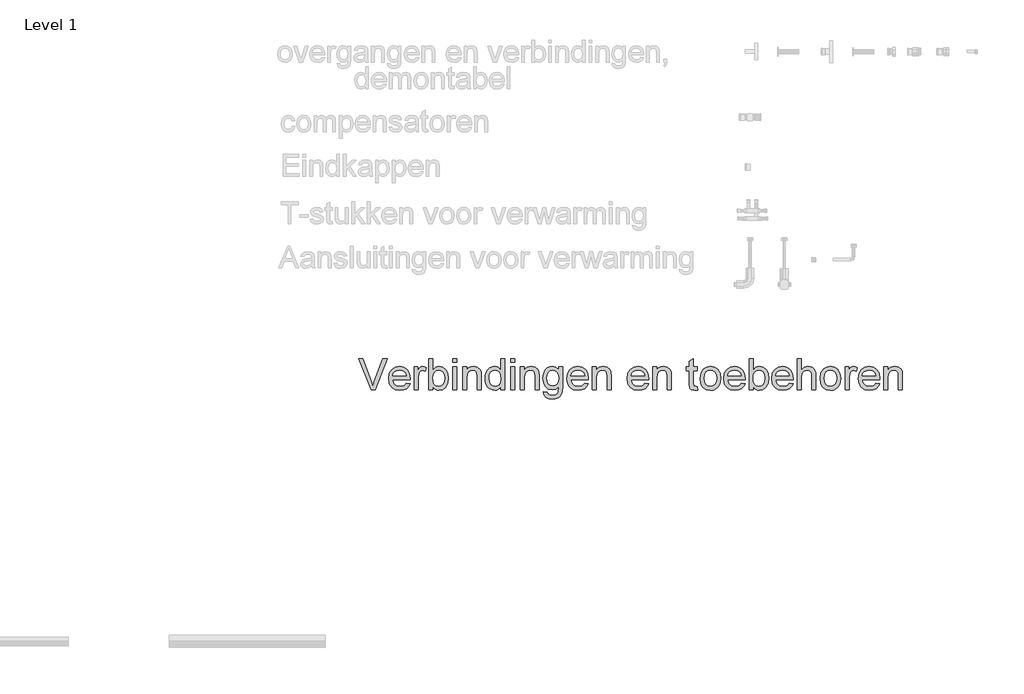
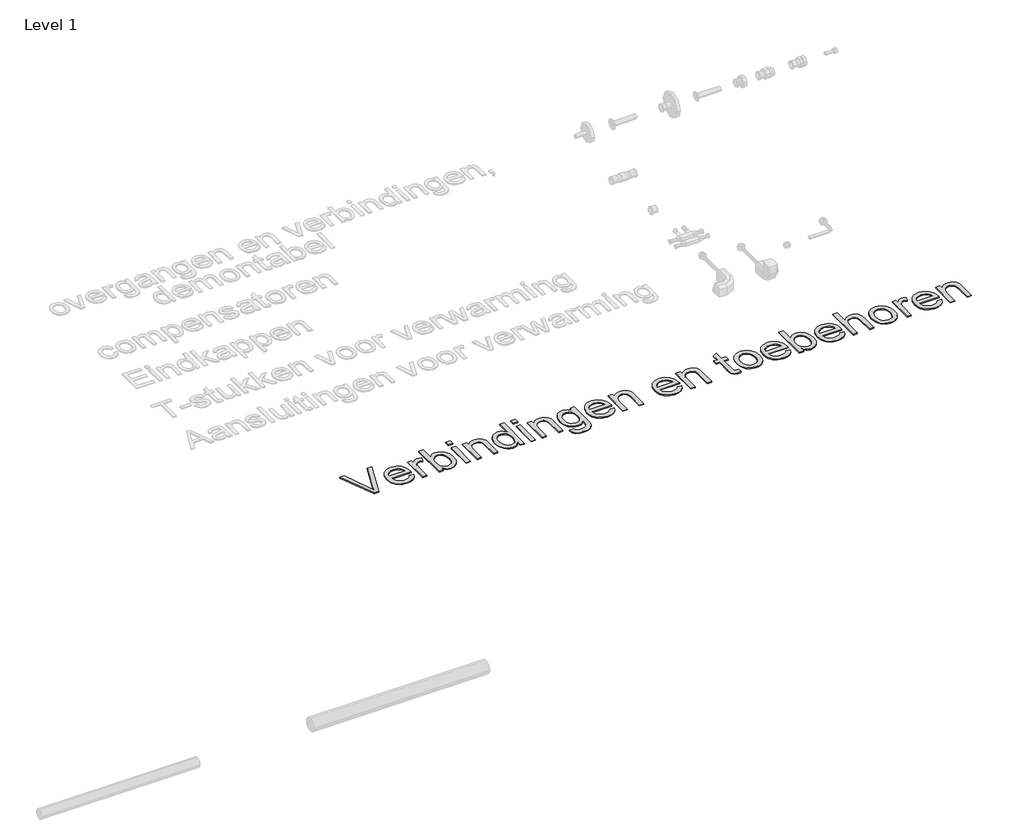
# One storey, part 4 of 8: 1 proxy.
"""IFC4 building model written with IfcOpenShell, lengths in millimetres."""

from ifc_helpers import new_model, si_unit, origin, origin_with_axes, place, context, project, spatial, polyline, outline, extrude, element, save

model = new_model("IFC4")

# Units and contexts
model_context = context("Model", 3, world=origin())
ifc_project = project(units=[si_unit("LENGTHUNIT", "METRE", prefix="MILLI")], contexts=[model_context])

# Site, building, storey
site = spatial("IfcSite", under=ifc_project)
building = spatial("IfcBuilding", under=site)
storey = spatial("IfcBuildingStorey", under=building, Name="Level 1", Elevation=0.0)

# Proxy
placement = place(None, origin())
element("IfcBuildingElementProxy", 1, Name="medium", ObjectType="medium", at=placement, inside=storey, context=model_context, shape_type="SweptSolid", body=[
    extrude(outline(polyline([(3231.9736722, 3122.4489245), (3152.0206519, 3323.3615448), (3178.900563, 3323.3615448), (3232.4151306, 3178.6122425), (3243.2553867, 3145.9933722), (3253.94849, 3178.6122425), (3307.6102104, 3323.3615448), (3334.4901215, 3323.3615448), (3257.9216156, 3122.4489245), (3231.9736722, 3122.4489245)])), origin_with_axes(), (0.0, 0.0, 1.0), 5.0),
    extrude(outline(polyline([(3458.00037, 3166.3985602), (3482.6239382, 3163.2593005), (3473.7518508, 3144.7057853), (3459.5945253, 3130.836634), (3440.4707929, 3122.1914071), (3416.6994847, 3119.3096649), (3387.2321369, 3124.2822032), (3364.5583432, 3139.1998181), (3350.1005808, 3163.0937536), (3345.2813267, 3194.995254), (3350.1496318, 3227.9697435), (3364.754547, 3252.6300999), (3387.1217723, 3268.0075673), (3415.2770076, 3273.1333898), (3442.5554576, 3268.01983), (3464.3524658, 3252.6791508), (3478.6446813, 3228.0678454), (3483.4087532, 3195.1424068), (3483.2616004, 3188.3733781), (3370.3954042, 3188.3733781), (3374.7425431, 3169.5746081), (3384.8409039, 3155.7545078), (3399.4151623, 3147.2564338), (3417.189994, 3144.4237424), (3441.8135622, 3149.6721922), (3450.9615612, 3156.4780091), (3458.00037, 3166.3985602)]), holes=[polyline([(3370.3954042, 3213.4874556), (3458.2946756, 3213.4874556), (3454.8978985, 3226.7557329), (3448.2392344, 3236.2470884), (3433.597531, 3245.0762563), (3415.1789058, 3248.0193122), (3398.2502026, 3245.6709988), (3384.2522927, 3238.6260586), (3374.5218139, 3227.6447811), (3370.3954042, 3213.4874556)])]), origin_with_axes(), (0.0, 0.0, 1.0), 5.0),
    extrude(outline(polyline([(3508.5228307, 3122.4489245), (3508.5228307, 3269.9941301), (3530.4976485, 3269.9941301), (3530.4976485, 3248.166465), (3546.0958451, 3268.2773474), (3561.7921436, 3273.1333898), (3574.3001314, 3271.1958779), (3587.004323, 3265.3833424), (3578.6166135, 3242.8689643), (3560.9582777, 3248.0193122), (3546.7580327, 3243.065168), (3537.7081356, 3229.3309069), (3533.6369082, 3199.9984491), (3533.6369082, 3122.4489245), (3508.5228307, 3122.4489245)])), origin_with_axes(), (0.0, 0.0, 1.0), 5.0),
    extrude(outline(polyline([(3627.814699, 3122.4489245), (3602.7006215, 3122.4489245), (3602.7006215, 3323.3615448), (3627.814699, 3323.3615448), (3627.814699, 3248.8531781), (3645.3994584, 3267.0633368), (3655.7921247, 3271.6158765), (3667.2516489, 3273.1333898), (3692.4147773, 3267.6642108), (3711.9370486, 3252.2867434), (3723.9300016, 3228.3744137), (3728.2710091, 3198.4288193), (3723.7767174, 3164.9025068), (3710.2938423, 3139.9601075), (3690.5079223, 3124.4722755), (3667.1044961, 3119.3096649), (3655.2678929, 3120.9743309), (3644.774059, 3125.968329), (3635.6229943, 3134.2916591), (3627.814699, 3145.9443213), (3627.814699, 3122.4489245)]), holes=[polyline([(3627.814699, 3197.2515969), (3629.5314816, 3176.3068486), (3634.6818296, 3162.1311291), (3647.8397423, 3148.8505891), (3664.946255, 3144.4237424), (3679.4408056, 3147.6856294), (3691.8261662, 3157.4712905), (3700.3242402, 3173.7194119), (3703.1569316, 3196.3686801), (3700.4407362, 3219.3490421), (3692.29215, 3235.4132225), (3680.2930656, 3244.8677898), (3666.0253756, 3248.0193122), (3651.5308249, 3244.7574252), (3639.1454644, 3234.9717641), (3630.6473904, 3219.0179483), (3627.814699, 3197.2515969)])]), origin_with_axes(), (0.0, 0.0, 1.0), 5.0),
    extrude(outline(polyline([(3756.5243464, 3122.4489245), (3756.5243464, 3269.9941301), (3781.6384239, 3269.9941301), (3781.6384239, 3122.4489245), (3756.5243464, 3122.4489245)])), origin_with_axes(), (0.0, 0.0, 1.0), 5.0),
    extrude(outline(polyline([(3756.5243464, 3298.2474673), (3756.5243464, 3323.3615448), (3781.6384239, 3323.3615448), (3781.6384239, 3298.2474673), (3756.5243464, 3298.2474673)])), origin_with_axes(), (0.0, 0.0, 1.0), 5.0),
    extrude(outline(polyline([(3819.3095402, 3122.4489245), (3819.3095402, 3269.9941301), (3844.4236178, 3269.9941301), (3844.4236178, 3249.3927383), (3853.1485524, 3259.7792733), (3863.6270579, 3267.1982269), (3875.8591342, 3271.6495991), (3889.8447814, 3273.1333898), (3913.5609074, 3268.3509238), (3929.7477152, 3255.7938851), (3937.2770333, 3237.3262089), (3938.6014085, 3213.0459972), (3938.6014085, 3122.4489245), (3913.487331, 3122.4489245), (3913.487331, 3209.6614829), (3910.5933259, 3231.8815554), (3900.3662065, 3243.6292538), (3883.1248036, 3248.0193122), (3868.4156552, 3245.5545029), (3855.8770105, 3238.1600748), (3847.2869659, 3223.8739906), (3844.4236178, 3200.7342131), (3844.4236178, 3122.4489245), (3819.3095402, 3122.4489245)])), origin_with_axes(), (0.0, 0.0, 1.0), 5.0),
    extrude(outline(polyline([(4064.1717962, 3122.4489245), (4064.1717962, 3146.140525), (4056.6578065, 3134.4020237), (4047.5557928, 3126.0173799), (4036.8657551, 3120.9865936), (4024.5876935, 3119.3096649), (4008.3518348, 3121.737686), (3993.4894022, 3129.0217495), (3980.907838, 3140.6529519), (3971.5145844, 3156.1223898), (3965.6652606, 3174.8046638), (3963.7154861, 3196.0743745), (3965.5119765, 3217.0804364), (3970.9014477, 3236.0508847), (3979.8777684, 3251.9065986), (3992.4348071, 3263.5684579), (4007.6222022, 3270.7421568), (4024.4895917, 3273.1333898), (4036.7768503, 3271.4227385), (4047.6416319, 3266.2907847), (4064.1717962, 3248.5098216), (4064.1717962, 3323.3615448), (4089.2858737, 3323.3615448), (4089.2858737, 3122.4489245), (4064.1717962, 3122.4489245)]), holes=[polyline([(3988.8295636, 3196.1724764), (3991.662255, 3173.4557632), (4000.160329, 3157.2996122), (4012.5089013, 3147.6427098), (4026.8930874, 3144.4237424), (4041.271142, 3147.495557), (4053.3070146, 3156.711001), (4061.4556008, 3172.2417526), (4064.1717962, 3194.25949), (4061.4065499, 3218.3312352), (4053.1108109, 3235.0208151), (4040.7683699, 3244.7696879), (4025.8630178, 3248.0193122), (4011.331679, 3244.8984466), (3999.4245651, 3235.5358499), (3991.478314, 3219.4532753), (3988.8295636, 3196.1724764)])]), origin_with_axes(), (0.0, 0.0, 1.0), 5.0),
    extrude(outline(polyline([(4126.95699, 3122.4489245), (4126.95699, 3269.9941301), (4152.0710676, 3269.9941301), (4152.0710676, 3122.4489245), (4126.95699, 3122.4489245)])), origin_with_axes(), (0.0, 0.0, 1.0), 5.0),
    extrude(outline(polyline([(4126.95699, 3298.2474673), (4126.95699, 3323.3615448), (4152.0710676, 3323.3615448), (4152.0710676, 3298.2474673), (4126.95699, 3298.2474673)])), origin_with_axes(), (0.0, 0.0, 1.0), 5.0),
    extrude(outline(polyline([(4189.7421839, 3122.4489245), (4189.7421839, 3269.9941301), (4214.8562614, 3269.9941301), (4214.8562614, 3249.3927383), (4223.5811961, 3259.7792733), (4234.0597016, 3267.1982269), (4246.2917779, 3271.6495991), (4260.2774251, 3273.1333898), (4283.9935511, 3268.3509238), (4300.1803588, 3255.7938851), (4307.709677, 3237.3262089), (4309.0340522, 3213.0459972), (4309.0340522, 3122.4489245), (4283.9199747, 3122.4489245), (4283.9199747, 3209.6614829), (4281.0259696, 3231.8815554), (4270.7988502, 3243.6292538), (4253.5574473, 3248.0193122), (4238.8482989, 3245.5545029), (4226.3096542, 3238.1600748), (4217.7196096, 3223.8739906), (4214.8562614, 3200.7342131), (4214.8562614, 3122.4489245), (4189.7421839, 3122.4489245)])), origin_with_axes(), (0.0, 0.0, 1.0), 5.0),
    extrude(outline(polyline([(4337.2873894, 3109.8918858), (4362.401467, 3106.7526261), (4365.1728447, 3098.9044769), (4370.5439218, 3093.5088743), (4381.102135, 3089.3150195), (4394.9222353, 3087.9170679), (4409.6620406, 3089.4989605), (4420.6249241, 3094.2446382), (4428.2278186, 3101.8475328), (4432.8876572, 3112.0010759), (4434.6044399, 3141.2844827), (4416.9215786, 3127.1578141), (4395.3636937, 3122.4489245), (4369.4709326, 3127.9303663), (4350.1632593, 3144.3746915), (4338.1519121, 3168.4832249), (4334.1481297, 3196.9572913), (4335.9446201, 3217.2337206), (4341.3340914, 3235.8792064), (4350.1264711, 3251.6797381), (4362.1316868, 3263.4213051), (4376.9389371, 3270.7053686), (4394.1374204, 3273.1333898), (4416.5414339, 3267.6396853), (4434.6044399, 3251.1585719), (4434.6044399, 3269.9941301), (4459.7185174, 3269.9941301), (4459.7185174, 3142.6088579), (4458.0017348, 3113.1966924), (4452.8513868, 3093.8277053), (4443.9792994, 3080.9824923), (4431.0972982, 3071.141649), (4414.4874261, 3064.887655), (4394.431726, 3062.8029904), (4371.0650879, 3065.739915), (4352.6648568, 3074.5506888), (4340.8619761, 3089.2598372), (4337.2873894, 3109.8918858)]), holes=[polyline([(4359.2622073, 3198.6740739), (4361.9416145, 3175.6385297), (4369.9798361, 3159.8012098), (4382.0647596, 3150.622554), (4396.8842726, 3147.5630021), (4411.5934211, 3150.6041599), (4423.7396583, 3159.7276334), (4431.8882445, 3175.3626182), (4434.6044399, 3197.93831), (4431.8085367, 3219.7107927), (4423.4208272, 3235.3886971), (4411.0967804, 3244.8616584), (4396.4918652, 3248.0193122), (4382.1505987, 3244.9107094), (4370.1269889, 3235.5849008), (4361.9784027, 3220.1399884), (4359.2622073, 3198.6740739)])]), origin_with_axes(), (0.0, 0.0, 1.0), 5.0),
    extrude(outline(polyline([(4600.690898, 3166.3985602), (4625.3144662, 3163.2593005), (4616.4423787, 3144.7057853), (4602.2850533, 3130.836634), (4583.1613209, 3122.1914071), (4559.3900126, 3119.3096649), (4529.9226648, 3124.2822032), (4507.2488712, 3139.1998181), (4492.7911088, 3163.0937536), (4487.9718546, 3194.995254), (4492.8401597, 3227.9697435), (4507.4450749, 3252.6300999), (4529.8123002, 3268.0075673), (4557.9675356, 3273.1333898), (4585.2459855, 3268.01983), (4607.0429938, 3252.6791508), (4621.3352093, 3228.0678454), (4626.0992811, 3195.1424068), (4625.9521283, 3188.3733781), (4513.0859322, 3188.3733781), (4517.4330711, 3169.5746081), (4527.5314319, 3155.7545078), (4542.1056902, 3147.2564338), (4559.880522, 3144.4237424), (4584.5040902, 3149.6721922), (4593.6520891, 3156.4780091), (4600.690898, 3166.3985602)]), holes=[polyline([(4513.0859322, 3213.4874556), (4600.9852036, 3213.4874556), (4597.5884265, 3226.7557329), (4590.9297624, 3236.2470884), (4576.288059, 3245.0762563), (4557.8694337, 3248.0193122), (4540.9407306, 3245.6709988), (4526.9428207, 3238.6260586), (4517.2123419, 3227.6447811), (4513.0859322, 3213.4874556)])]), origin_with_axes(), (0.0, 0.0, 1.0), 5.0),
    extrude(outline(polyline([(4651.2133586, 3122.4489245), (4651.2133586, 3269.9941301), (4676.3274362, 3269.9941301), (4676.3274362, 3249.3927383), (4685.0523708, 3259.7792733), (4695.5308763, 3267.1982269), (4707.7629527, 3271.6495991), (4721.7485998, 3273.1333898), (4745.4647258, 3268.3509238), (4761.6515336, 3255.7938851), (4769.1808518, 3237.3262089), (4770.5052269, 3213.0459972), (4770.5052269, 3122.4489245), (4745.3911494, 3122.4489245), (4745.3911494, 3209.6614829), (4742.4971444, 3231.8815554), (4732.2700249, 3243.6292538), (4715.0286221, 3248.0193122), (4700.3194736, 3245.5545029), (4687.780829, 3238.1600748), (4679.1907844, 3223.8739906), (4676.3274362, 3200.7342131), (4676.3274362, 3122.4489245), (4651.2133586, 3122.4489245)])), origin_with_axes(), (0.0, 0.0, 1.0), 5.0),
    extrude(outline(polyline([(4986.8198401, 3166.3985602), (5011.4434083, 3163.2593005), (5002.5713209, 3144.7057853), (4988.4139954, 3130.836634), (4969.290263, 3122.1914071), (4945.5189548, 3119.3096649), (4916.051607, 3124.2822032), (4893.3778133, 3139.1998181), (4878.9200509, 3163.0937536), (4874.1007968, 3194.995254), (4878.9691019, 3227.9697435), (4893.5740171, 3252.6300999), (4915.9412424, 3268.0075673), (4944.0964777, 3273.1333898), (4971.3749277, 3268.01983), (4993.1719359, 3252.6791508), (5007.4641514, 3228.0678454), (5012.2282232, 3195.1424068), (5012.0810704, 3188.3733781), (4899.2148743, 3188.3733781), (4903.5620132, 3169.5746081), (4913.660374, 3155.7545078), (4928.2346324, 3147.2564338), (4946.0094641, 3144.4237424), (4970.6330323, 3149.6721922), (4979.7810313, 3156.4780091), (4986.8198401, 3166.3985602)]), holes=[polyline([(4899.2148743, 3213.4874556), (4987.1141457, 3213.4874556), (4983.7173686, 3226.7557329), (4977.0587045, 3236.2470884), (4962.4170011, 3245.0762563), (4943.9983759, 3248.0193122), (4927.0696727, 3245.6709988), (4913.0717628, 3238.6260586), (4903.341284, 3227.6447811), (4899.2148743, 3213.4874556)])]), origin_with_axes(), (0.0, 0.0, 1.0), 5.0),
    extrude(outline(polyline([(5037.3423008, 3122.4489245), (5037.3423008, 3269.9941301), (5062.4563783, 3269.9941301), (5062.4563783, 3249.3927383), (5071.181313, 3259.7792733), (5081.6598185, 3267.1982269), (5093.8918948, 3271.6495991), (5107.877542, 3273.1333898), (5131.5936679, 3268.3509238), (5147.7804757, 3255.7938851), (5155.3097939, 3237.3262089), (5156.6341691, 3213.0459972), (5156.6341691, 3122.4489245), (5131.5200915, 3122.4489245), (5131.5200915, 3209.6614829), (5128.6260865, 3231.8815554), (5118.398967, 3243.6292538), (5101.1575642, 3248.0193122), (5086.4484158, 3245.5545029), (5073.9097711, 3238.1600748), (5065.3197265, 3223.8739906), (5062.4563783, 3200.7342131), (5062.4563783, 3122.4489245), (5037.3423008, 3122.4489245)])), origin_with_axes(), (0.0, 0.0, 1.0), 5.0),
    extrude(outline(polyline([(5323.0149328, 3143.3936728), (5326.1541925, 3121.7131606), (5307.3676852, 3119.3096649), (5286.3248351, 3123.4789941), (5275.8279355, 3134.4173521), (5272.7867777, 3162.915944), (5272.7867777, 3244.8800525), (5253.9512195, 3244.8800525), (5253.9512195, 3269.9941301), (5272.7867777, 3269.9941301), (5272.7867777, 3305.8503619), (5297.9008552, 3320.6146926), (5297.9008552, 3269.9941301), (5323.0149328, 3269.9941301), (5323.0149328, 3244.8800525), (5297.9008552, 3244.8800525), (5297.9008552, 3163.651708), (5299.2252304, 3150.7022618), (5303.517187, 3146.1159996), (5312.0765748, 3144.4237424), (5323.0149328, 3143.3936728)])), origin_with_axes(), (0.0, 0.0, 1.0), 5.0),
    extrude(outline(polyline([(5341.8504909, 3196.2215273), (5347.2828817, 3231.7957162), (5354.0733702, 3245.6188822), (5363.5800541, 3256.7994292), (5383.715462, 3269.0498996), (5407.8239954, 3273.1333898), (5434.2072658, 3268.1608515), (5455.2807728, 3253.2432366), (5469.0947417, 3229.5577674), (5473.699398, 3198.2816665), (5471.6637843, 3172.9100715), (5465.5569432, 3153.5962668), (5455.5566843, 3139.132373), (5441.8408172, 3128.310511), (5425.5497762, 3121.5598764), (5407.8239954, 3119.3096649), (5381.1218939, 3124.2638091), (5360.0729124, 3139.1262417), (5346.4060963, 3163.3083515), (5341.8504909, 3196.2215273)]), holes=[polyline([(5366.9645685, 3196.2705782), (5369.8708362, 3173.5416023), (5378.5896395, 3157.3486632), (5391.710764, 3147.6549726), (5407.8239954, 3144.4237424), (5423.8636504, 3147.6733667), (5436.9602494, 3157.4222396), (5445.6790527, 3173.8297765), (5448.5853205, 3197.0553932), (5445.6606586, 3219.1221815), (5436.886673, 3235.0943915), (5423.7716799, 3244.788082), (5407.8239954, 3248.0193122), (5391.710764, 3244.8003448), (5378.5896395, 3235.1434424), (5369.8708362, 3218.9872914), (5366.9645685, 3196.2705782)])]), origin_with_axes(), (0.0, 0.0, 1.0), 5.0),
    extrude(outline(polyline([(5605.2539995, 3166.3985602), (5629.8775677, 3163.2593005), (5621.0054802, 3144.7057853), (5606.8481548, 3130.836634), (5587.7244224, 3122.1914071), (5563.9531141, 3119.3096649), (5534.4857663, 3124.2822032), (5511.8119727, 3139.1998181), (5497.3542103, 3163.0937536), (5492.5349561, 3194.995254), (5497.4032612, 3227.9697435), (5512.0081764, 3252.6300999), (5534.3754017, 3268.0075673), (5562.5306371, 3273.1333898), (5589.809087, 3268.01983), (5611.6060952, 3252.6791508), (5625.8983108, 3228.0678454), (5630.6623826, 3195.1424068), (5630.5152298, 3188.3733781), (5517.6490337, 3188.3733781), (5521.9961726, 3169.5746081), (5532.0945334, 3155.7545078), (5546.6687917, 3147.2564338), (5564.4436235, 3144.4237424), (5589.0671917, 3149.6721922), (5598.2151906, 3156.4780091), (5605.2539995, 3166.3985602)]), holes=[polyline([(5517.6490337, 3213.4874556), (5605.5483051, 3213.4874556), (5602.151528, 3226.7557329), (5595.4928639, 3236.2470884), (5580.8511605, 3245.0762563), (5562.4325352, 3248.0193122), (5545.5038321, 3245.6709988), (5531.5059222, 3238.6260586), (5521.7754434, 3227.6447811), (5517.6490337, 3213.4874556)])]), origin_with_axes(), (0.0, 0.0, 1.0), 5.0),
    extrude(outline(polyline([(5680.8905377, 3122.4489245), (5655.7764601, 3122.4489245), (5655.7764601, 3323.3615448), (5680.8905377, 3323.3615448), (5680.8905377, 3248.8531781), (5698.475297, 3267.0633368), (5708.8679634, 3271.6158765), (5720.3274876, 3273.1333898), (5745.490616, 3267.6642108), (5765.0128872, 3252.2867434), (5777.0058403, 3228.3744137), (5781.3468478, 3198.4288193), (5776.8525561, 3164.9025068), (5763.369681, 3139.9601075), (5743.583761, 3124.4722755), (5720.1803348, 3119.3096649), (5708.3437316, 3120.9743309), (5697.8498977, 3125.968329), (5688.698833, 3134.2916591), (5680.8905377, 3145.9443213), (5680.8905377, 3122.4489245)]), holes=[polyline([(5680.8905377, 3197.2515969), (5682.6073203, 3176.3068486), (5687.7576682, 3162.1311291), (5700.9155809, 3148.8505891), (5718.0220937, 3144.4237424), (5732.5166443, 3147.6856294), (5744.9020048, 3157.4712905), (5753.4000789, 3173.7194119), (5756.2327703, 3196.3686801), (5753.5165749, 3219.3490421), (5745.3679887, 3235.4132225), (5733.3689043, 3244.8677898), (5719.1012142, 3248.0193122), (5704.6066636, 3244.7574252), (5692.2213031, 3234.9717641), (5683.723229, 3219.0179483), (5680.8905377, 3197.2515969)])]), origin_with_axes(), (0.0, 0.0, 1.0), 5.0),
    extrude(outline(polyline([(5912.9014493, 3166.3985602), (5937.5250175, 3163.2593005), (5928.6529301, 3144.7057853), (5914.4956046, 3130.836634), (5895.3718722, 3122.1914071), (5871.600564, 3119.3096649), (5842.1332162, 3124.2822032), (5819.4594225, 3139.1998181), (5805.0016601, 3163.0937536), (5800.182406, 3194.995254), (5805.050711, 3227.9697435), (5819.6556263, 3252.6300999), (5842.0228516, 3268.0075673), (5870.1780869, 3273.1333898), (5897.4565369, 3268.01983), (5919.2535451, 3252.6791508), (5933.5457606, 3228.0678454), (5938.3098324, 3195.1424068), (5938.1626796, 3188.3733781), (5825.2964835, 3188.3733781), (5829.6436224, 3169.5746081), (5839.7419832, 3155.7545078), (5854.3162416, 3147.2564338), (5872.0910733, 3144.4237424), (5896.7146415, 3149.6721922), (5905.8626405, 3156.4780091), (5912.9014493, 3166.3985602)]), holes=[polyline([(5825.2964835, 3213.4874556), (5913.1957549, 3213.4874556), (5909.7989778, 3226.7557329), (5903.1403137, 3236.2470884), (5888.4986103, 3245.0762563), (5870.0799851, 3248.0193122), (5853.1512819, 3245.6709988), (5839.153372, 3238.6260586), (5829.4228932, 3227.6447811), (5825.2964835, 3213.4874556)])]), origin_with_axes(), (0.0, 0.0, 1.0), 5.0),
    extrude(outline(polyline([(5963.42391, 3122.4489245), (5963.42391, 3323.3615448), (5988.5379875, 3323.3615448), (5988.5379875, 3249.4908402), (6008.1215724, 3267.2227524), (6032.2423685, 3273.1333898), (6047.4113695, 3271.5208404), (6060.4466548, 3266.6831921), (6070.7105625, 3259.0005898), (6077.5654303, 3248.8531781), (6081.4281913, 3234.9104505), (6082.7157783, 3215.8419004), (6082.7157783, 3122.4489245), (6057.6017007, 3122.4489245), (6057.6017007, 3213.242201), (6055.6028752, 3228.9630249), (6049.6063987, 3239.7297046), (6039.943365, 3245.9469103), (6026.9448678, 3248.0193122), (6006.3680015, 3242.4275059), (5998.1151821, 3235.8424182), (5992.6337404, 3227.2707677), (5988.5379875, 3200.832315), (5988.5379875, 3122.4489245), (5963.42391, 3122.4489245)])), origin_with_axes(), (0.0, 0.0, 1.0), 5.0),
    extrude(outline(polyline([(6110.9691155, 3196.2215273), (6116.4015063, 3231.7957162), (6123.1919948, 3245.6188822), (6132.6986787, 3256.7994292), (6152.8340866, 3269.0498996), (6176.94262, 3273.1333898), (6203.3258904, 3268.1608515), (6224.3993973, 3253.2432366), (6238.2133663, 3229.5577674), (6242.8180226, 3198.2816665), (6240.7824089, 3172.9100715), (6234.6755677, 3153.5962668), (6224.6753088, 3139.132373), (6210.9594418, 3128.310511), (6194.6684008, 3121.5598764), (6176.94262, 3119.3096649), (6150.2405185, 3124.2638091), (6129.191537, 3139.1262417), (6115.5247209, 3163.3083515), (6110.9691155, 3196.2215273)]), holes=[polyline([(6136.083193, 3196.2705782), (6138.9894608, 3173.5416023), (6147.7082641, 3157.3486632), (6160.8293886, 3147.6549726), (6176.94262, 3144.4237424), (6192.982275, 3147.6733667), (6206.078874, 3157.4222396), (6214.7976773, 3173.8297765), (6217.703945, 3197.0553932), (6214.7792832, 3219.1221815), (6206.0052976, 3235.0943915), (6192.8903045, 3244.788082), (6176.94262, 3248.0193122), (6160.8293886, 3244.8003448), (6147.7082641, 3235.1434424), (6138.9894608, 3218.9872914), (6136.083193, 3196.2705782)])]), origin_with_axes(), (0.0, 0.0, 1.0), 5.0),
    extrude(outline(polyline([(6271.0713598, 3122.4489245), (6271.0713598, 3269.9941301), (6293.0461776, 3269.9941301), (6293.0461776, 3248.166465), (6308.6443742, 3268.2773474), (6324.3406727, 3273.1333898), (6336.8486605, 3271.1958779), (6349.5528521, 3265.3833424), (6341.1651426, 3242.8689643), (6323.5068068, 3248.0193122), (6309.3065618, 3243.065168), (6300.2566648, 3229.3309069), (6296.1854373, 3199.9984491), (6296.1854373, 3122.4489245), (6271.0713598, 3122.4489245)])), origin_with_axes(), (0.0, 0.0, 1.0), 5.0),
    extrude(outline(polyline([(6468.5504148, 3166.3985602), (6493.173983, 3163.2593005), (6484.3018956, 3144.7057853), (6470.1445701, 3130.836634), (6451.0208377, 3122.1914071), (6427.2495295, 3119.3096649), (6397.7821817, 3124.2822032), (6375.108388, 3139.1998181), (6360.6506256, 3163.0937536), (6355.8313715, 3194.995254), (6360.6996766, 3227.9697435), (6375.3045918, 3252.6300999), (6397.6718171, 3268.0075673), (6425.8270524, 3273.1333898), (6453.1055024, 3268.01983), (6474.9025106, 3252.6791508), (6489.1947261, 3228.0678454), (6493.9587979, 3195.1424068), (6493.8116451, 3188.3733781), (6380.945449, 3188.3733781), (6385.2925879, 3169.5746081), (6395.3909487, 3155.7545078), (6409.9652071, 3147.2564338), (6427.7400388, 3144.4237424), (6452.363607, 3149.6721922), (6461.511606, 3156.4780091), (6468.5504148, 3166.3985602)]), holes=[polyline([(6380.945449, 3213.4874556), (6468.8447204, 3213.4874556), (6465.4479433, 3226.7557329), (6458.7892792, 3236.2470884), (6444.1475758, 3245.0762563), (6425.7289506, 3248.0193122), (6408.8002474, 3245.6709988), (6394.8023375, 3238.6260586), (6385.0718587, 3227.6447811), (6380.945449, 3213.4874556)])]), origin_with_axes(), (0.0, 0.0, 1.0), 5.0),
    extrude(outline(polyline([(6519.0728755, 3122.4489245), (6519.0728755, 3269.9941301), (6544.186953, 3269.9941301), (6544.186953, 3249.3927383), (6552.9118877, 3259.7792733), (6563.3903932, 3267.1982269), (6575.6224695, 3271.6495991), (6589.6081167, 3273.1333898), (6613.3242426, 3268.3509238), (6629.5110504, 3255.7938851), (6637.0403686, 3237.3262089), (6638.3647438, 3213.0459972), (6638.3647438, 3122.4489245), (6613.2506662, 3122.4489245), (6613.2506662, 3209.6614829), (6610.3566612, 3231.8815554), (6600.1295418, 3243.6292538), (6582.8881389, 3248.0193122), (6568.1789905, 3245.5545029), (6555.6403458, 3238.1600748), (6547.0503012, 3223.8739906), (6544.186953, 3200.7342131), (6544.186953, 3122.4489245), (6519.0728755, 3122.4489245)])), origin_with_axes(), (0.0, 0.0, 1.0), 5.0),
])

save(model, "model.ifc")
